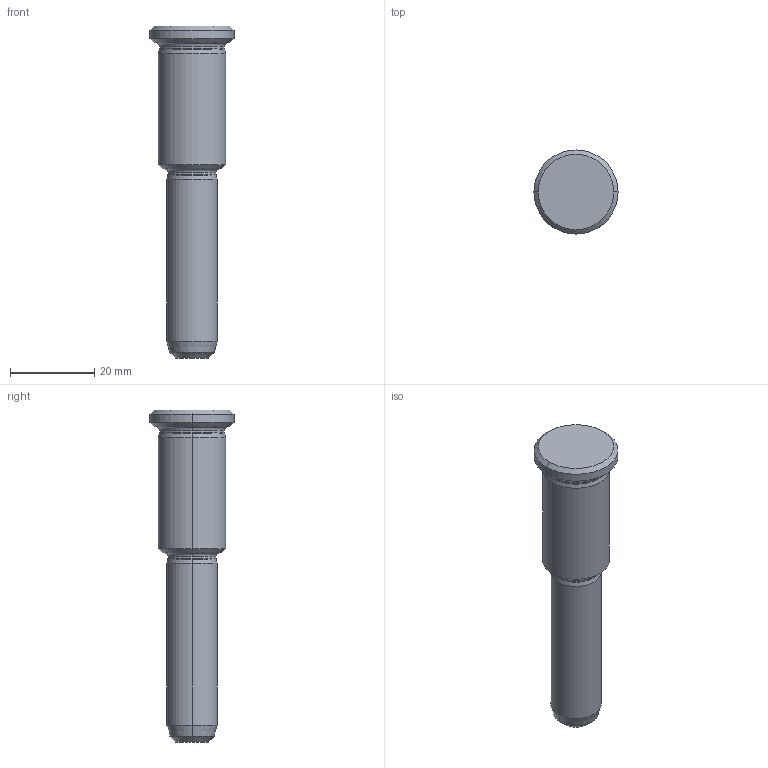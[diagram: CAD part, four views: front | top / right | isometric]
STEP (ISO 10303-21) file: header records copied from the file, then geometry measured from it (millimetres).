
FILE_DESCRIPTION (( 'STEP AP214' ), '1' );
FILE_NAME ('BRGC 12x34x45.STEP', '2019-12-19T09:28:22', ( 'August' ), ( '' ), 'SwSTEP 2.0', 'SolidWorks 2018', '' );
FILE_SCHEMA (( 'AUTOMOTIVE_DESIGN' ));
Length unit declared in the file: millimetre
Products named in the file (1): BRGC 12x34x45
Bounding box: 20 x 20 x 79 mm (x, y, z)
Volume: 12158.5 mm3; surface area: 3907.9 mm2
Topology: 1 solids, 1 shells, 36 faces, 70 edges, 38 vertices
Faces by surface type: cone 14, cylinder 10, torus 8, plane 4
Entity records: 946 total; most frequent: DIRECTION 190, CARTESIAN_POINT 145, ORIENTED_EDGE 140, AXIS2_PLACEMENT_3D 83, EDGE_CURVE 70, CIRCLE 46, EDGE_LOOP 38, VERTEX_POINT 38
